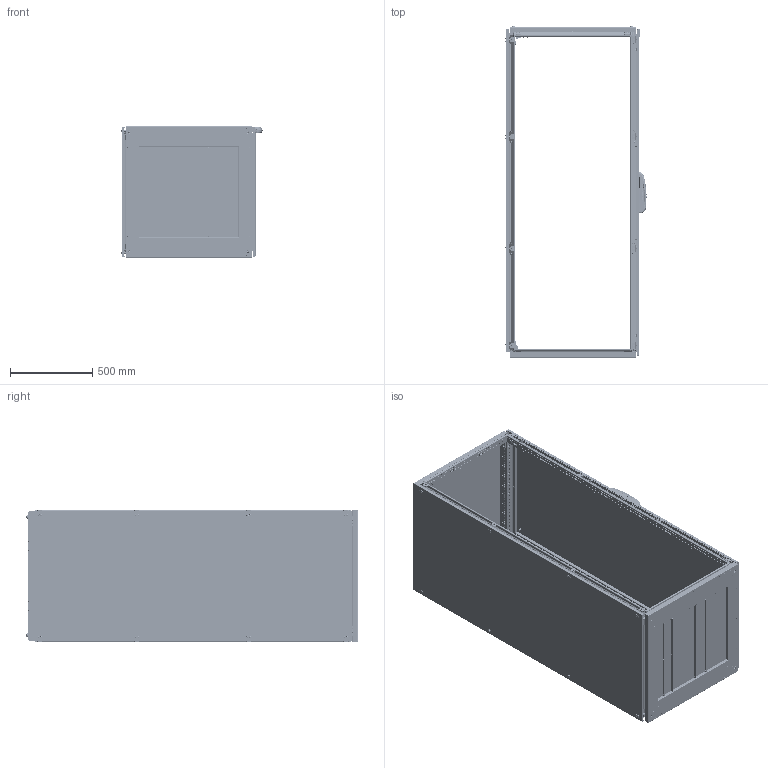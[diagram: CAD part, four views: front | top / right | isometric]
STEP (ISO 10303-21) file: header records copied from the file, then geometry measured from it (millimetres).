
FILE_DESCRIPTION (( 'STEP AP214' ), '1' );
FILE_NAME ('T200808S - 2000 H X 800 W X 800 D.STEP', '2026-09-14T06:13:42', ( '' ), ( '' ), 'SwSTEP 2.0', 'SolidWorks 2025', '' );
FILE_SCHEMA (( 'AUTOMOTIVE_DESIGN' ));
Length unit declared in the file: millimetre
Products named in the file (95): BOYUNA DELIKLI PROFIL_2000; Crossmember Frontdoor_800x2000; DDENEME5DENEME4TEOS Kilit Çubuk Pimi; MP 11.0195 Mounting Plate M8 Wedge; L CORNER SUPPORT; Front Name Slat_800; DDENEME5DENEME4MP 18.7631 Kol-Cark; Front Door 2 mm DKP_PP 17.1089 800x2000; 03-KOSE PUNT_PP 12.0027; Teos Rear Panel Dkp 1.5 mm_PP 12.0082 800x2000; Teos-Neo MP Sağ Braketi; socket button head cap screw_am_B18.3.4M - 12 x 1.75 x 30 SBHCS --N; Base depth with rivet_PP 12.0026 - 800; TEOS FRONT DOOR_800x2000; PM 25.0038 WITH CAGE NUT TEOS LOCK BRACKET TOP-MIDDLE; TEOS FRAME_2000 ; TEOS REAR PANEL_ 703.820 800X2000; DDENEME5DENEME4TEOS Kilit Çubuk Dili; 03-TABAN SACI U1 04-2012_PP 12.0036 -800-200; M8 KAFES SOMUN_m8; MP 25.0027 TEOS MENTEŞE ORTA; Riveted Base_701.880-80X80 ALT; DDENEME5DENEME4MP 18.7631 Gövde-Plastik; 03-TABAN SACI U1 04-2012_PP 12.0041 -800-75; DDENEME5DENEME4AynalamaTEOS Kilit Alt Çubuk Montaj4; mp aLT DAYAMA_800 dekra; 22032010-PLASTIK KOSE50x40; MP 14.0006 SEALING GASKET; M8 Somun Kafesi_m8; PM 25.0040 WITH CAGE NUT TEOS SIDE AND REAR PANEL BRACKET - MIDDLE; DDENEME5DENEME4MP 18.7631 32002136; Front Door Plastic Screw Holder; TEOS FRAME ASSEMBLY_800x2000x800; flat head screw_am_B18.6.7M - M6 x 1.0 x 30 Type I Cross Recessed FHMS --30N; kafes somun kafes; kafes somun kafes 2025; B18.3.5M - 5 x 0.8 x 10 Socket FCHS  -- 10N_B18.3.5M - 5 x 0.8 x 10 Socket FCHS  -- 10N; Teos-Neo Mounting Plate Right Bracket Mounting_Standart Pozisyon; Teos-Neo MP Sol Braketi; M8 Kare Somun_m8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
Assembly tree (317 placements, depth 5):
  T200808S -  2000 H X 800 W X 800 D
    TEOS FRAME ASSEMBLY_800x2000x800
      TEOS FRAME_2000   x4
      TEOS FRAME_800  x8
      L CORNER SUPPORT  x8
      CORNER BRACKET  x15
      CORNER BRACKET 2
      MP 11.0140 TEOS ALUMINIUM CORNER  x8
      M5 SQUARE WASHER  x16
      Riveted Base_701.880-80X80 ALT
        Base width with rivet_PP 12.0020 - 800  x2
        Base depth with rivet_PP 12.0026 - 800  x2
        03-KOSE PUNT_PP 12.0027
        03-KOSE PUNT
        Mirror03-KOSE PUNT  x2
        03-TABAN SACI SURGU_PP 12.0031 - 800  x2
        03-TABAN SACI U1 04-2012_PP 12.0041 -800-75
        03-TABAN SACI U1 04-2012_PP 12.0036 -800-200  x2
        mp aLT DAYAMA_800 dekra  x2
      socket button head cap screw_am_B18.3.4M - 8 x 1.25 x 16 SBHCS --N  x53
      pan cross head_am1_B18.6.7M - M5 x 0.8 x 10 Type I Cross Recessed PHMS --10N  x21
      B18.3.5M - 5 x 0.8 x 10 Socket FCHS  -- 10N_B18.3.5M - 5 x 0.8 x 10 Socket FCHS  -- 10N  x16
      PM 25.0039 WITH CAGE NUT TEOS SIDE AND REAR PANEL BRACKET TOP - BOTTOM  x4
        MP 25.0030 TEOS YAN VE ARKA KAPAK BAĞLANTI SACI ALT - ÜST
        M6 KAFES SOMU2015 2025
          kafes somun kafes 2025
          somu 2025
      PM 25.0040 WITH CAGE NUT TEOS SIDE AND REAR PANEL BRACKET - MIDDLE  x4
        MP 25.0031 TEOS YAN VE ARKA KAPAK BAĞLANTI SACI ORTA
        M6 KAFES SOMU2015 2025
          kafes somun kafes 2025
          somu 2025
      PM 25.0037 WITH CAGE NUT TEOS LOCK BRACKET TOP-BOTTOM  x2
        MP 25.0028 TEOS ALT - ÜST KİLİT DİLİ
        M6 KAFES SOMU2015 2025
          kafes somun kafes 2025
          somu 2025
      PM 25.0038 WITH CAGE NUT TEOS LOCK BRACKET TOP-MIDDLE  x2
        MP 25.0029 TEOS ORTA KİLİT DİLİ
        M6 KAFES SOMU2015 2025
          kafes somun kafes 2025
          somu 2025
      PM 25.0041 HINGE BRACKET WITH CAGE NUT TOP - BOTTOM  x2
        MP 25.0026 TEOS MENTEŞE ALT - ÜST
        M6 KAFES SOMU
          kafes somun kafes
          somu
      PM 25.0042 HINGE BRACKET WITH CAGE NUT TOP - MIDDLE  x2
        MP 25.0027 TEOS MENTEŞE ORTA
        M6 KAFES SOMU2015 2025
          kafes somun kafes 2025
          somu 2025
    TEOS TOP COVER_PP 12.0011 800X800
    TEOS FRONT DOOR_800x2000
      Front Door 2 mm DKP_PP 17.1089 800x2000
      Front Door Plastic Screw Holder  x4
      Crossmember Frontdoor_800x2000
        ENINE DELIKLI PROFIL_800  x2
        BOYUNA DELIKLI PROFIL_2000  x2
        22032010-PLASTIK KOSE50x40  x4
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Bounding box: 858.18 x 2018.08 x 801.56 mm (x, y, z)
Volume: 19522627.4 mm3; surface area: 19762714.7 mm2
Topology: 341 solids, 381 shells, 47390 faces, 127589 edges, 80531 vertices
Faces by surface type: plane 28730, cylinder 13803, bspline 2261, cone 1096, torus 889, sphere 611
Entity records: 603549 total; most frequent: CARTESIAN_POINT 283216, ORIENTED_EDGE 67864, DIRECTION 62583, EDGE_CURVE 33932, VERTEX_POINT 21642, AXIS2_PLACEMENT_3D 21022, VECTOR 20539, LINE 20539
